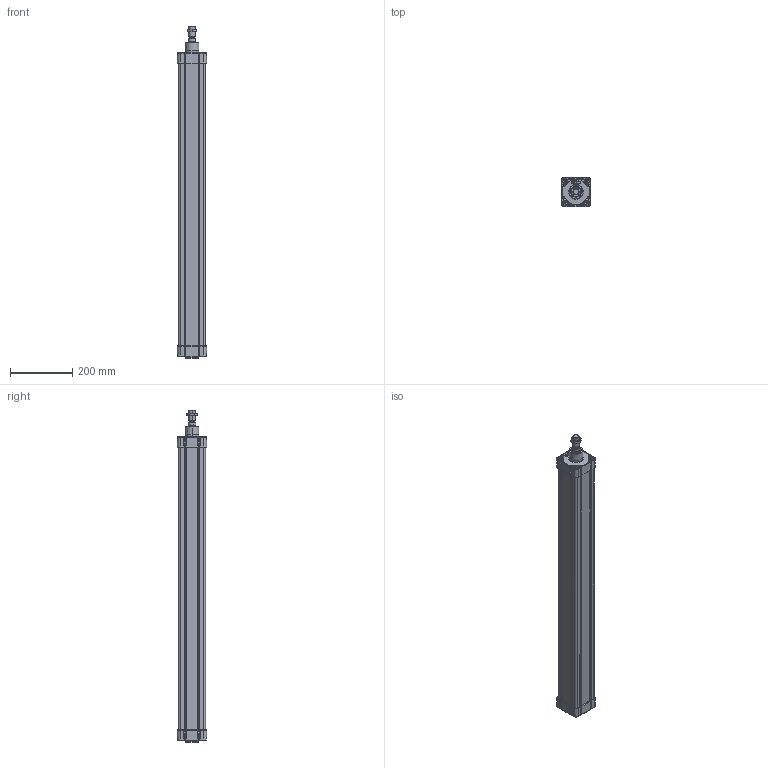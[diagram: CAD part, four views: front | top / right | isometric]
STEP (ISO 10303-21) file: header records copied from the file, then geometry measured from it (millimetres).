
FILE_DESCRIPTION (( 'STEP AP214' ), '1' );
FILE_NAME ('N11M20800850.STEP', '2021-09-28T10:47:31', ( '' ), ( '' ), 'SwSTEP 2.0', 'SolidWorks 2016', '' );
FILE_SCHEMA (( 'AUTOMOTIVE_DESIGN' ));
Length unit declared in the file: millimetre
Products named in the file (7): N11M20800850; Pistone Ø80 ISO 15552; 21.E01.0000_21.E01.0850; TP Ø80 ISO 15552 WEB; 21.753.0; TA Ø80 ISO 15552 WEB; 000.514.7_000.514.0850
Assembly tree (6 placements, depth 2):
  N11M20800850
    TP Ø80 ISO 15552 WEB
    TA Ø80 ISO 15552 WEB
    Pistone Ø80 ISO 15552
    21.E01.0000_21.E01.0850
    000.514.7_000.514.0850
    21.753.0
Bounding box: 93.95 x 93.97 x 1069 mm (x, y, z)
Volume: 2982634.3 mm3; surface area: 1012329.8 mm2
Topology: 17 solids, 18 shells, 2101 faces, 5387 edges, 3419 vertices
Faces by surface type: plane 892, cylinder 644, cone 262, bspline 214, torus 85, sphere 4
Entity records: 91017 total; most frequent: CARTESIAN_POINT 20496, ORIENTED_EDGE 10730, DIRECTION 9855, EDGE_CURVE 5365, AXIS2_PLACEMENT_3D 3478, VERTEX_POINT 3419, VECTOR 2899, LINE 2899
